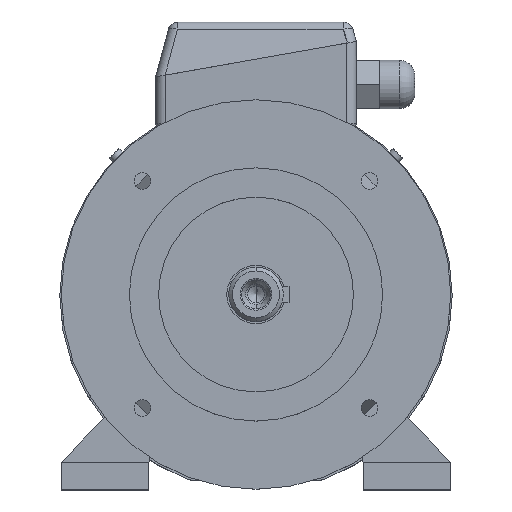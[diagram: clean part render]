
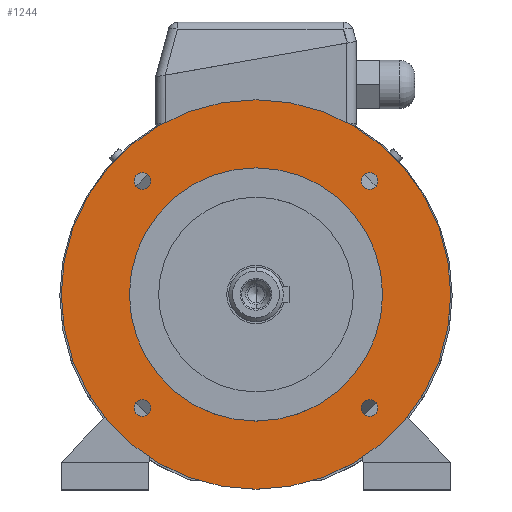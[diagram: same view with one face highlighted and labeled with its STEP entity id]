
A CAD part, top view. The second image highlights one B-rep face of the part: STEP entity #1244.
In plain terms, the highlighted planar face has unit normal (0, 0, 1).
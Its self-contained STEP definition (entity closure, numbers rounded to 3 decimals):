
#132 = ORIENTED_EDGE ( 'NONE', *, *, #19700, .F. ) ;
#16817 = EDGE_LOOP ( 'NONE', ( #7408, #6399 ) ) ;
#17110 = ORIENTED_EDGE ( 'NONE', *, *, #13718, .F. ) ;
#17170 = CARTESIAN_POINT ( 'NONE',  ( 54.036, 58.336, 45. ) ) ;
#17183 = VERTEX_POINT ( 'NONE', #10718 ) ;
#962 = EDGE_LOOP ( 'NONE', ( #132, #19077 ) ) ;
#1021 = CARTESIAN_POINT ( 'NONE',  ( -62.636, 58.336, 45. ) ) ;
#17439 = EDGE_CURVE ( 'NONE', #18696, #17183, #10918, .T. ) ;
#1244 = ADVANCED_FACE ( 'NONE', ( #15208, #15209, #15210, #15211, #15212, #15213 ), #15214, .T. ) ;
#1330 = VERTEX_POINT ( 'NONE', #15304 ) ;
#17725 = EDGE_CURVE ( 'NONE', #13639, #14036, #11197, .T. ) ;
#1588 = EDGE_CURVE ( 'NONE', #1330, #2633, #15517, .T. ) ;
#1706 = EDGE_CURVE ( 'NONE', #2633, #1330, #15628, .T. ) ;
#18111 = CIRCLE ( 'NONE', #18112, 4.3 ) ;
#18112 = AXIS2_PLACEMENT_3D ( 'NONE', #18113, #18114, #18115 ) ;
#18113 = CARTESIAN_POINT ( 'NONE',  ( 58.336, 58.336, 45. ) ) ;
#18114 = DIRECTION ( 'NONE',  ( 0., 0., 1. ) ) ;
#18115 = DIRECTION ( 'NONE',  ( 1., 0., 0. ) ) ;
#18163 = ORIENTED_EDGE ( 'NONE', *, *, #17725, .F. ) ;
#2255 = CARTESIAN_POINT ( 'NONE',  ( 0., -100., 45. ) ) ;
#18696 = VERTEX_POINT ( 'NONE', #11853 ) ;
#18781 = EDGE_LOOP ( 'NONE', ( #18163, #17110 ) ) ;
#2443 = CARTESIAN_POINT ( 'NONE',  ( 0., 100., 45. ) ) ;
#2633 = VERTEX_POINT ( 'NONE', #16349 ) ;
#2637 = EDGE_LOOP ( 'NONE', ( #13099, #12474 ) ) ;
#2674 = CIRCLE ( 'NONE', #2675, 100. ) ;
#2675 = AXIS2_PLACEMENT_3D ( 'NONE', #2676, #2677, #2678 ) ;
#2676 = CARTESIAN_POINT ( 'NONE',  ( 0., 0., 45. ) ) ;
#2677 = DIRECTION ( 'NONE',  ( 0., 0., -1. ) ) ;
#2678 = DIRECTION ( 'NONE',  ( 0., 1., 0. ) ) ;
#19077 = ORIENTED_EDGE ( 'NONE', *, *, #13226, .F. ) ;
#2931 = ORIENTED_EDGE ( 'NONE', *, *, #1706, .T. ) ;
#19658 = CIRCLE ( 'NONE', #19659, 4.3 ) ;
#19659 = AXIS2_PLACEMENT_3D ( 'NONE', #19660, #19661, #19662 ) ;
#19660 = CARTESIAN_POINT ( 'NONE',  ( 58.336, -58.336, 45. ) ) ;
#19661 = DIRECTION ( 'NONE',  ( 0., 0., 1. ) ) ;
#19662 = DIRECTION ( 'NONE',  ( 1., 0., 0. ) ) ;
#19700 = EDGE_CURVE ( 'NONE', #13008, #8699, #12853, .T. ) ;
#3541 = ORIENTED_EDGE ( 'NONE', *, *, #1588, .T. ) ;
#3557 = CIRCLE ( 'NONE', #3561, 100. ) ;
#3561 = AXIS2_PLACEMENT_3D ( 'NONE', #3562, #3563, #3564 ) ;
#3562 = CARTESIAN_POINT ( 'NONE',  ( 0., 0., 45. ) ) ;
#3563 = DIRECTION ( 'NONE',  ( 0., 0., -1. ) ) ;
#3564 = DIRECTION ( 'NONE',  ( 0., 1., 0. ) ) ;
#3720 = VERTEX_POINT ( 'NONE', #17170 ) ;
#4157 = EDGE_LOOP ( 'NONE', ( #3541, #2931 ) ) ;
#4446 = ORIENTED_EDGE ( 'NONE', *, *, #13399, .F. ) ;
#5028 = CARTESIAN_POINT ( 'NONE',  ( -54.036, 58.336, 45. ) ) ;
#5062 = EDGE_CURVE ( 'NONE', #13343, #3720, #18111, .T. ) ;
#5265 = CIRCLE ( 'NONE', #5266, 4.3 ) ;
#5266 = AXIS2_PLACEMENT_3D ( 'NONE', #5267, #5268, #5269 ) ;
#5267 = CARTESIAN_POINT ( 'NONE',  ( -58.336, 58.336, 45. ) ) ;
#5268 = DIRECTION ( 'NONE',  ( 0., 0., 1. ) ) ;
#5269 = DIRECTION ( 'NONE',  ( 1., 0., 0. ) ) ;
#5500 = ORIENTED_EDGE ( 'NONE', *, *, #5062, .F. ) ;
#5528 = CARTESIAN_POINT ( 'NONE',  ( 62.636, 58.336, 45. ) ) ;
#5630 = CIRCLE ( 'NONE', #5631, 4.3 ) ;
#5631 = AXIS2_PLACEMENT_3D ( 'NONE', #5632, #5633, #5634 ) ;
#5632 = CARTESIAN_POINT ( 'NONE',  ( 58.336, 58.336, 45. ) ) ;
#5633 = DIRECTION ( 'NONE',  ( 0., 0., 1. ) ) ;
#5634 = DIRECTION ( 'NONE',  ( 1., 0., 0. ) ) ;
#6115 = EDGE_LOOP ( 'NONE', ( #5500, #4446 ) ) ;
#6238 = CARTESIAN_POINT ( 'NONE',  ( -54.036, -58.336, 45. ) ) ;
#6399 = ORIENTED_EDGE ( 'NONE', *, *, #17439, .F. ) ;
#6548 = CIRCLE ( 'NONE', #6549, 4.3 ) ;
#6549 = AXIS2_PLACEMENT_3D ( 'NONE', #6559, #6560, #6561 ) ;
#6559 = CARTESIAN_POINT ( 'NONE',  ( -58.336, -58.336, 45. ) ) ;
#6560 = DIRECTION ( 'NONE',  ( 0., 0., 1. ) ) ;
#6561 = DIRECTION ( 'NONE',  ( 1., 0., 0. ) ) ;
#7015 = EDGE_CURVE ( 'NONE', #17183, #18696, #19658, .T. ) ;
#7408 = ORIENTED_EDGE ( 'NONE', *, *, #7015, .F. ) ;
#7615 = CARTESIAN_POINT ( 'NONE',  ( -62.636, -58.336, 45. ) ) ;
#8699 = VERTEX_POINT ( 'NONE', #1021 ) ;
#10276 = VERTEX_POINT ( 'NONE', #2255 ) ;
#10550 = VERTEX_POINT ( 'NONE', #2443 ) ;
#10718 = CARTESIAN_POINT ( 'NONE',  ( 62.636, -58.336, 45. ) ) ;
#10817 = EDGE_CURVE ( 'NONE', #10550, #10276, #2674, .T. ) ;
#10918 = CIRCLE ( 'NONE', #10919, 4.3 ) ;
#10919 = AXIS2_PLACEMENT_3D ( 'NONE', #10920, #10924, #10925 ) ;
#10920 = CARTESIAN_POINT ( 'NONE',  ( 58.336, -58.336, 45. ) ) ;
#10924 = DIRECTION ( 'NONE',  ( 0., 0., 1. ) ) ;
#10925 = DIRECTION ( 'NONE',  ( 1., 0., 0. ) ) ;
#11197 = CIRCLE ( 'NONE', #11198, 4.3 ) ;
#11198 = AXIS2_PLACEMENT_3D ( 'NONE', #11199, #11200, #11201 ) ;
#11199 = CARTESIAN_POINT ( 'NONE',  ( -58.336, -58.336, 45. ) ) ;
#11200 = DIRECTION ( 'NONE',  ( 0., 0., 1. ) ) ;
#11201 = DIRECTION ( 'NONE',  ( 1., 0., 0. ) ) ;
#11853 = CARTESIAN_POINT ( 'NONE',  ( 54.036, -58.336, 45. ) ) ;
#12025 = EDGE_CURVE ( 'NONE', #10276, #10550, #3557, .T. ) ;
#12474 = ORIENTED_EDGE ( 'NONE', *, *, #12025, .F. ) ;
#12853 = CIRCLE ( 'NONE', #12854, 4.3 ) ;
#12854 = AXIS2_PLACEMENT_3D ( 'NONE', #12855, #12856, #12857 ) ;
#12855 = CARTESIAN_POINT ( 'NONE',  ( -58.336, 58.336, 45. ) ) ;
#12856 = DIRECTION ( 'NONE',  ( 0., 0., 1. ) ) ;
#12857 = DIRECTION ( 'NONE',  ( 1., 0., 0. ) ) ;
#13008 = VERTEX_POINT ( 'NONE', #5028 ) ;
#13099 = ORIENTED_EDGE ( 'NONE', *, *, #10817, .F. ) ;
#13226 = EDGE_CURVE ( 'NONE', #8699, #13008, #5265, .T. ) ;
#13343 = VERTEX_POINT ( 'NONE', #5528 ) ;
#13399 = EDGE_CURVE ( 'NONE', #3720, #13343, #5630, .T. ) ;
#13639 = VERTEX_POINT ( 'NONE', #6238 ) ;
#13718 = EDGE_CURVE ( 'NONE', #14036, #13639, #6548, .T. ) ;
#14036 = VERTEX_POINT ( 'NONE', #7615 ) ;
#15208 = FACE_BOUND ( 'NONE', #962, .T. ) ;
#15209 = FACE_BOUND ( 'NONE', #18781, .T. ) ;
#15210 = FACE_BOUND ( 'NONE', #16817, .T. ) ;
#15211 = FACE_BOUND ( 'NONE', #6115, .T. ) ;
#15212 = FACE_BOUND ( 'NONE', #4157, .T. ) ;
#15213 = FACE_OUTER_BOUND ( 'NONE', #2637, .T. ) ;
#15214 = PLANE ( 'NONE',  #15215 ) ;
#15215 = AXIS2_PLACEMENT_3D ( 'NONE', #15216, #15217, #15218 ) ;
#15216 = CARTESIAN_POINT ( 'NONE',  ( 0., 100., 45. ) ) ;
#15217 = DIRECTION ( 'NONE',  ( 0., 0., 1. ) ) ;
#15218 = DIRECTION ( 'NONE',  ( 0., -1., 0. ) ) ;
#15304 = CARTESIAN_POINT ( 'NONE',  ( 0., 65., 45. ) ) ;
#15517 = CIRCLE ( 'NONE', #15518, 65. ) ;
#15518 = AXIS2_PLACEMENT_3D ( 'NONE', #15519, #15520, #15521 ) ;
#15519 = CARTESIAN_POINT ( 'NONE',  ( 0., 0., 45. ) ) ;
#15520 = DIRECTION ( 'NONE',  ( 0., 0., -1. ) ) ;
#15521 = DIRECTION ( 'NONE',  ( 0., 1., 0. ) ) ;
#15628 = CIRCLE ( 'NONE', #15629, 65. ) ;
#15629 = AXIS2_PLACEMENT_3D ( 'NONE', #15630, #15631, #15632 ) ;
#15630 = CARTESIAN_POINT ( 'NONE',  ( 0., 0., 45. ) ) ;
#15631 = DIRECTION ( 'NONE',  ( 0., 0., -1. ) ) ;
#15632 = DIRECTION ( 'NONE',  ( 0., 1., 0. ) ) ;
#16349 = CARTESIAN_POINT ( 'NONE',  ( 0., -65., 45. ) ) ;
